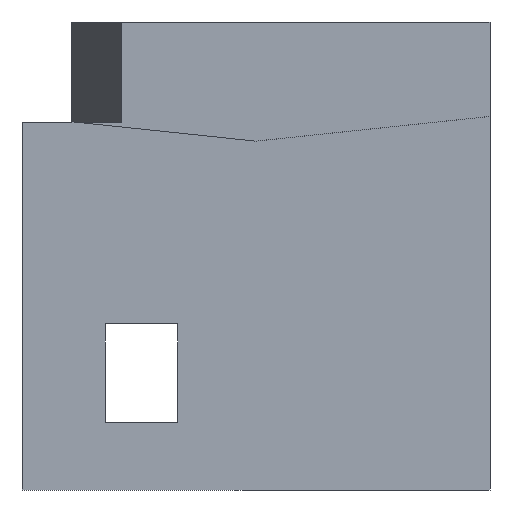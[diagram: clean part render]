
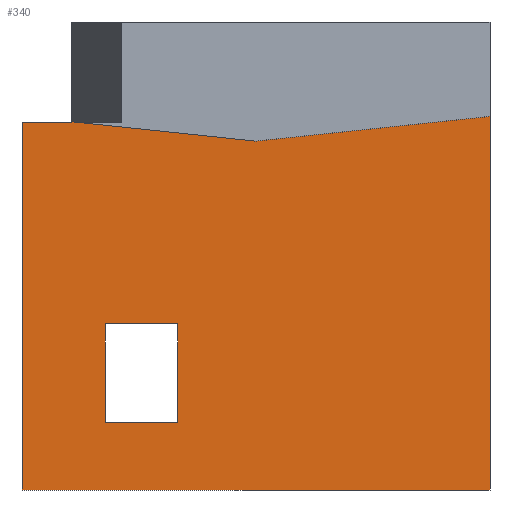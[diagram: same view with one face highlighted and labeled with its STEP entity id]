
A CAD part, front view. The second image highlights one B-rep face of the part: STEP entity #340.
In plain terms, the highlighted planar face has unit normal (0, -1, 0).
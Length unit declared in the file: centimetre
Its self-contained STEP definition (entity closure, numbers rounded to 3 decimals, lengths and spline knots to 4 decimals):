
#3 = DIRECTION ( 'NONE',  ( 0., 1., 0. ) ) ;
#4 = CARTESIAN_POINT ( 'NONE',  ( 0., 0., 0. ) ) ;
#31 = DIRECTION ( 'NONE',  ( 0.994, 0., 0.105 ) ) ;
#39 = LINE ( 'NONE', #779, #897 ) ;
#42 = VERTEX_POINT ( 'NONE', #469 ) ;
#48 = VECTOR ( 'NONE', #212, 100. ) ;
#70 = CARTESIAN_POINT ( 'NONE',  ( 177.7732, 0., 354.7841 ) ) ;
#83 = VECTOR ( 'NONE', #295, 100. ) ;
#100 = CARTESIAN_POINT ( 'NONE',  ( 1000., 0., 798.2098 ) ) ;
#102 = CARTESIAN_POINT ( 'NONE',  ( 500., 0., 745.4799 ) ) ;
#110 = CARTESIAN_POINT ( 'NONE',  ( 106.3688, 0., 784.271 ) ) ;
#114 = LINE ( 'NONE', #719, #322 ) ;
#131 = LINE ( 'NONE', #860, #378 ) ;
#140 = EDGE_CURVE ( 'NONE', #150, #762, #245, .T. ) ;
#143 = CARTESIAN_POINT ( 'NONE',  ( 106.3688, 0., 786.9921 ) ) ;
#147 = VERTEX_POINT ( 'NONE', #520 ) ;
#150 = VERTEX_POINT ( 'NONE', #817 ) ;
#190 = VERTEX_POINT ( 'NONE', #759 ) ;
#193 = VERTEX_POINT ( 'NONE', #102 ) ;
#195 = CARTESIAN_POINT ( 'NONE',  ( 332.4975, 0., 144.9162 ) ) ;
#203 = DIRECTION ( 'NONE',  ( 0.994, 0., -0.105 ) ) ;
#206 = ORIENTED_EDGE ( 'NONE', *, *, #260, .T. ) ;
#212 = DIRECTION ( 'NONE',  ( 0., 0., -1. ) ) ;
#245 = LINE ( 'NONE', #70, #83 ) ;
#260 = EDGE_CURVE ( 'NONE', #793, #190, #39, .T. ) ;
#265 = ORIENTED_EDGE ( 'NONE', *, *, #140, .F. ) ;
#268 = LINE ( 'NONE', #800, #757 ) ;
#280 = ORIENTED_EDGE ( 'NONE', *, *, #283, .T. ) ;
#283 = EDGE_CURVE ( 'NONE', #418, #793, #268, .T. ) ;
#284 = CARTESIAN_POINT ( 'NONE',  ( 106.3688, 0., 784.271 ) ) ;
#290 = EDGE_CURVE ( 'NONE', #357, #190, #945, .T. ) ;
#295 = DIRECTION ( 'NONE',  ( -1., 0., 0. ) ) ;
#296 = VERTEX_POINT ( 'NONE', #143 ) ;
#302 = ORIENTED_EDGE ( 'NONE', *, *, #755, .F. ) ;
#322 = VECTOR ( 'NONE', #203, 100. ) ;
#336 = EDGE_CURVE ( 'NONE', #762, #42, #733, .T. ) ;
#338 = VECTOR ( 'NONE', #364, 100. ) ;
#340 = ADVANCED_FACE ( 'NONE', ( #950, #450 ), #427, .F. ) ;
#349 = EDGE_LOOP ( 'NONE', ( #434, #497, #265, #302 ) ) ;
#357 = VERTEX_POINT ( 'NONE', #100 ) ;
#364 = DIRECTION ( 'NONE',  ( 0., 0., -1. ) ) ;
#378 = VECTOR ( 'NONE', #414, 100. ) ;
#408 = DIRECTION ( 'NONE',  ( 1., 0., 0. ) ) ;
#414 = DIRECTION ( 'NONE',  ( 1., 0., 0. ) ) ;
#418 = VERTEX_POINT ( 'NONE', #530 ) ;
#419 = DIRECTION ( 'NONE',  ( 1., 0., 0. ) ) ;
#423 = VECTOR ( 'NONE', #778, 100. ) ;
#427 = PLANE ( 'NONE',  #586 ) ;
#434 = ORIENTED_EDGE ( 'NONE', *, *, #661, .F. ) ;
#450 = FACE_OUTER_BOUND ( 'NONE', #845, .T. ) ;
#469 = CARTESIAN_POINT ( 'NONE',  ( 177.7732, 0., 144.9162 ) ) ;
#488 = VECTOR ( 'NONE', #638, 100. ) ;
#491 = CARTESIAN_POINT ( 'NONE',  ( 177.7732, 0., 354.7841 ) ) ;
#497 = ORIENTED_EDGE ( 'NONE', *, *, #336, .F. ) ;
#520 = CARTESIAN_POINT ( 'NONE',  ( 106.3688, 0., 784.271 ) ) ;
#525 = VECTOR ( 'NONE', #31, 100. ) ;
#529 = VERTEX_POINT ( 'NONE', #684 ) ;
#530 = CARTESIAN_POINT ( 'NONE',  ( 0., 0., 784.271 ) ) ;
#562 = LINE ( 'NONE', #195, #488 ) ;
#563 = CARTESIAN_POINT ( 'NONE',  ( 177.7732, 0., 144.9162 ) ) ;
#586 = AXIS2_PLACEMENT_3D ( 'NONE', #664, #3, #689 ) ;
#595 = EDGE_CURVE ( 'NONE', #193, #357, #829, .T. ) ;
#598 = ORIENTED_EDGE ( 'NONE', *, *, #595, .F. ) ;
#638 = DIRECTION ( 'NONE',  ( 0., 0., 1. ) ) ;
#653 = ORIENTED_EDGE ( 'NONE', *, *, #290, .F. ) ;
#657 = DIRECTION ( 'NONE',  ( 0., 0., -1. ) ) ;
#661 = EDGE_CURVE ( 'NONE', #42, #529, #131, .T. ) ;
#664 = CARTESIAN_POINT ( 'NONE',  ( 0., 0., 1000. ) ) ;
#672 = EDGE_CURVE ( 'NONE', #296, #193, #114, .T. ) ;
#684 = CARTESIAN_POINT ( 'NONE',  ( 332.4975, 0., 144.9162 ) ) ;
#689 = DIRECTION ( 'NONE',  ( 0., 0., 1. ) ) ;
#713 = ORIENTED_EDGE ( 'NONE', *, *, #768, .F. ) ;
#714 = LINE ( 'NONE', #284, #423 ) ;
#719 = CARTESIAN_POINT ( 'NONE',  ( 500., 0., 745.4799 ) ) ;
#733 = LINE ( 'NONE', #563, #338 ) ;
#739 = CARTESIAN_POINT ( 'NONE',  ( 1000., 0., 1000. ) ) ;
#755 = EDGE_CURVE ( 'NONE', #529, #150, #562, .T. ) ;
#757 = VECTOR ( 'NONE', #657, 100. ) ;
#759 = CARTESIAN_POINT ( 'NONE',  ( 1000., 0., 0. ) ) ;
#762 = VERTEX_POINT ( 'NONE', #491 ) ;
#768 = EDGE_CURVE ( 'NONE', #147, #296, #714, .T. ) ;
#778 = DIRECTION ( 'NONE',  ( 0., 0., 1. ) ) ;
#779 = CARTESIAN_POINT ( 'NONE',  ( 0., 0., 0. ) ) ;
#780 = LINE ( 'NONE', #110, #943 ) ;
#793 = VERTEX_POINT ( 'NONE', #4 ) ;
#800 = CARTESIAN_POINT ( 'NONE',  ( 0., 0., 1000. ) ) ;
#817 = CARTESIAN_POINT ( 'NONE',  ( 332.4975, 0., 354.7841 ) ) ;
#829 = LINE ( 'NONE', #913, #525 ) ;
#845 = EDGE_LOOP ( 'NONE', ( #653, #598, #899, #713, #864, #280, #206 ) ) ;
#860 = CARTESIAN_POINT ( 'NONE',  ( 177.7732, 0., 144.9162 ) ) ;
#864 = ORIENTED_EDGE ( 'NONE', *, *, #910, .F. ) ;
#897 = VECTOR ( 'NONE', #419, 100. ) ;
#899 = ORIENTED_EDGE ( 'NONE', *, *, #672, .F. ) ;
#910 = EDGE_CURVE ( 'NONE', #418, #147, #780, .T. ) ;
#913 = CARTESIAN_POINT ( 'NONE',  ( 1000., 0., 798.2098 ) ) ;
#943 = VECTOR ( 'NONE', #408, 100. ) ;
#945 = LINE ( 'NONE', #739, #48 ) ;
#950 = FACE_BOUND ( 'NONE', #349, .T. ) ;
